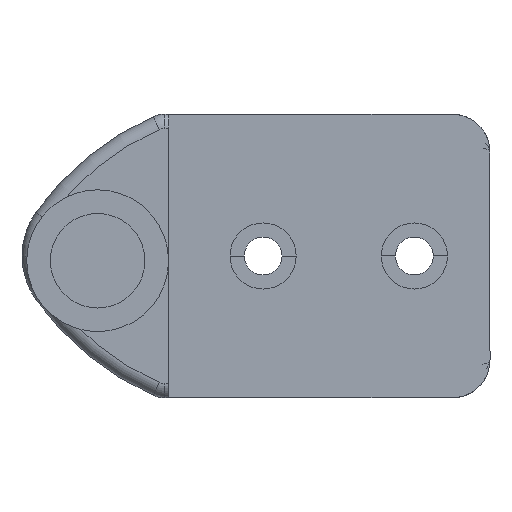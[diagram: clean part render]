
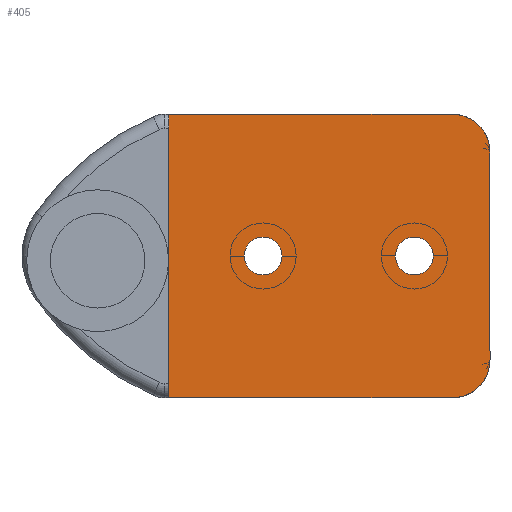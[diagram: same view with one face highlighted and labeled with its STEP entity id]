
A CAD part, front view. The second image highlights one B-rep face of the part: STEP entity #405.
In plain terms, the highlighted planar face has unit normal (0, -1, 0).
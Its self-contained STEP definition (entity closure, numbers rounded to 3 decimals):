
#41 = EDGE_CURVE ( 'NONE', #3117, #3076, #1175, .T. ) ;
#42 = AXIS2_PLACEMENT_3D ( 'NONE', #2123, #2122, #2121 ) ;
#105 = EDGE_CURVE ( 'NONE', #3116, #3111, #1114, .T. ) ;
#121 = AXIS2_PLACEMENT_3D ( 'NONE', #2561, #2560, #2559 ) ;
#122 = AXIS2_PLACEMENT_3D ( 'NONE', #2565, #2564, #2563 ) ;
#158 = AXIS2_PLACEMENT_3D ( 'NONE', #2797, #2796, #2795 ) ;
#159 = AXIS2_PLACEMENT_3D ( 'NONE', #2815, #2814, #2813 ) ;
#172 = AXIS2_PLACEMENT_3D ( 'NONE', #2899, #2898, #2897 ) ;
#178 = AXIS2_PLACEMENT_3D ( 'NONE', #2961, #2960, #2959 ) ;
#243 = EDGE_CURVE ( 'NONE', #3043, #3098, #1414, .T. ) ;
#246 = EDGE_CURVE ( 'NONE', #3098, #3065, #1420, .T. ) ;
#249 = EDGE_CURVE ( 'NONE', #3065, #3078, #694, .T. ) ;
#256 = EDGE_CURVE ( 'NONE', #3089, #3043, #747, .T. ) ;
#297 = EDGE_CURVE ( 'NONE', #3078, #3038, #745, .T. ) ;
#330 = EDGE_CURVE ( 'NONE', #3038, #3089, #705, .T. ) ;
#333 = EDGE_CURVE ( 'NONE', #3076, #3117, #701, .T. ) ;
#334 = EDGE_CURVE ( 'NONE', #3111, #3116, #700, .T. ) ;
#405 = ADVANCED_FACE ( 'NONE', ( #603, #602, #601 ), #2125, .T. ) ;
#601 = FACE_OUTER_BOUND ( 'NONE', #1313, .T. ) ;
#602 = FACE_BOUND ( 'NONE', #1311, .T. ) ;
#603 = FACE_BOUND ( 'NONE', #1316, .T. ) ;
#694 = CIRCLE ( 'NONE', #158, 4. ) ;
#700 = CIRCLE ( 'NONE', #121, 2. ) ;
#701 = CIRCLE ( 'NONE', #122, 2. ) ;
#704 = VECTOR ( 'NONE', #2572, 1000. ) ;
#705 = LINE ( 'NONE', #2573, #704 ) ;
#744 = VECTOR ( 'NONE', #2687, 1000. ) ;
#745 = LINE ( 'NONE', #2688, #744 ) ;
#746 = VECTOR ( 'NONE', #2754, 1000. ) ;
#747 = LINE ( 'NONE', #2755, #746 ) ;
#793 = ORIENTED_EDGE ( 'NONE', *, *, #297, .F. ) ;
#794 = ORIENTED_EDGE ( 'NONE', *, *, #330, .F. ) ;
#796 = ORIENTED_EDGE ( 'NONE', *, *, #249, .F. ) ;
#815 = ORIENTED_EDGE ( 'NONE', *, *, #246, .F. ) ;
#821 = ORIENTED_EDGE ( 'NONE', *, *, #243, .F. ) ;
#829 = ORIENTED_EDGE ( 'NONE', *, *, #256, .F. ) ;
#891 = ORIENTED_EDGE ( 'NONE', *, *, #105, .T. ) ;
#990 = ORIENTED_EDGE ( 'NONE', *, *, #333, .T. ) ;
#993 = ORIENTED_EDGE ( 'NONE', *, *, #334, .T. ) ;
#1056 = ORIENTED_EDGE ( 'NONE', *, *, #41, .T. ) ;
#1114 = CIRCLE ( 'NONE', #172, 2. ) ;
#1175 = CIRCLE ( 'NONE', #178, 2. ) ;
#1210 = CARTESIAN_POINT ( 'NONE',  ( 41.5, 497., -10.5 ) ) ;
#1311 = EDGE_LOOP ( 'NONE', ( #993, #891 ) ) ;
#1313 = EDGE_LOOP ( 'NONE', ( #829, #794, #793, #796, #815, #821 ) ) ;
#1316 = EDGE_LOOP ( 'NONE', ( #990, #1056 ) ) ;
#1346 = CARTESIAN_POINT ( 'NONE',  ( 35.5, 497., 0.5 ) ) ;
#1352 = CARTESIAN_POINT ( 'NONE',  ( 41.5, 497., 11.5 ) ) ;
#1368 = CARTESIAN_POINT ( 'NONE',  ( 7.5, 497., 15.5 ) ) ;
#1392 = VECTOR ( 'NONE', #2802, 1000. ) ;
#1395 = CARTESIAN_POINT ( 'NONE',  ( 31.5, 497., 0.5 ) ) ;
#1397 = CARTESIAN_POINT ( 'NONE',  ( 15.5, 497., 0.5 ) ) ;
#1414 = CIRCLE ( 'NONE', #159, 4. ) ;
#1420 = LINE ( 'NONE', #2803, #1392 ) ;
#1999 = CARTESIAN_POINT ( 'NONE',  ( 37.5, 497., 15.5 ) ) ;
#2015 = CARTESIAN_POINT ( 'NONE',  ( 7.5, 497., -14.5 ) ) ;
#2066 = CARTESIAN_POINT ( 'NONE',  ( 37.5, 497., -14.5 ) ) ;
#2068 = CARTESIAN_POINT ( 'NONE',  ( 19.5, 497., 0.5 ) ) ;
#2121 = DIRECTION ( 'NONE',  ( -1., 0., 0. ) ) ;
#2122 = DIRECTION ( 'NONE',  ( 0., -1., 0. ) ) ;
#2123 = CARTESIAN_POINT ( 'NONE',  ( 37.5, 497., -10.5 ) ) ;
#2125 = PLANE ( 'NONE',  #42 ) ;
#2559 = DIRECTION ( 'NONE',  ( -1., 0., 0. ) ) ;
#2560 = DIRECTION ( 'NONE',  ( 0., 1., 0. ) ) ;
#2561 = CARTESIAN_POINT ( 'NONE',  ( 33.5, 497., 0.5 ) ) ;
#2563 = DIRECTION ( 'NONE',  ( -1., 0., 0. ) ) ;
#2564 = DIRECTION ( 'NONE',  ( 0., 1., 0. ) ) ;
#2565 = CARTESIAN_POINT ( 'NONE',  ( 17.5, 497., 0.5 ) ) ;
#2572 = DIRECTION ( 'NONE',  ( 0., 0., 1. ) ) ;
#2573 = CARTESIAN_POINT ( 'NONE',  ( 7.5, 497., 15.5 ) ) ;
#2687 = DIRECTION ( 'NONE',  ( -1., 0., 0. ) ) ;
#2688 = CARTESIAN_POINT ( 'NONE',  ( 7.5, 497., -14.5 ) ) ;
#2754 = DIRECTION ( 'NONE',  ( 1., 0., 0. ) ) ;
#2755 = CARTESIAN_POINT ( 'NONE',  ( 37.5, 497., 15.5 ) ) ;
#2795 = DIRECTION ( 'NONE',  ( -1., 0., 0. ) ) ;
#2796 = DIRECTION ( 'NONE',  ( 0., 1., 0. ) ) ;
#2797 = CARTESIAN_POINT ( 'NONE',  ( 37.5, 497., -10.5 ) ) ;
#2802 = DIRECTION ( 'NONE',  ( 0., 0., -1. ) ) ;
#2803 = CARTESIAN_POINT ( 'NONE',  ( 41.5, 497., -10.5 ) ) ;
#2813 = DIRECTION ( 'NONE',  ( -1., 0., 0. ) ) ;
#2814 = DIRECTION ( 'NONE',  ( 0., 1., 0. ) ) ;
#2815 = CARTESIAN_POINT ( 'NONE',  ( 37.5, 497., 11.5 ) ) ;
#2897 = DIRECTION ( 'NONE',  ( -1., 0., 0. ) ) ;
#2898 = DIRECTION ( 'NONE',  ( 0., 1., 0. ) ) ;
#2899 = CARTESIAN_POINT ( 'NONE',  ( 33.5, 497., 0.5 ) ) ;
#2959 = DIRECTION ( 'NONE',  ( -1., 0., 0. ) ) ;
#2960 = DIRECTION ( 'NONE',  ( 0., 1., 0. ) ) ;
#2961 = CARTESIAN_POINT ( 'NONE',  ( 17.5, 497., 0.5 ) ) ;
#3038 = VERTEX_POINT ( 'NONE', #2015 ) ;
#3043 = VERTEX_POINT ( 'NONE', #1999 ) ;
#3065 = VERTEX_POINT ( 'NONE', #1210 ) ;
#3076 = VERTEX_POINT ( 'NONE', #2068 ) ;
#3078 = VERTEX_POINT ( 'NONE', #2066 ) ;
#3089 = VERTEX_POINT ( 'NONE', #1368 ) ;
#3098 = VERTEX_POINT ( 'NONE', #1352 ) ;
#3111 = VERTEX_POINT ( 'NONE', #1346 ) ;
#3116 = VERTEX_POINT ( 'NONE', #1395 ) ;
#3117 = VERTEX_POINT ( 'NONE', #1397 ) ;
